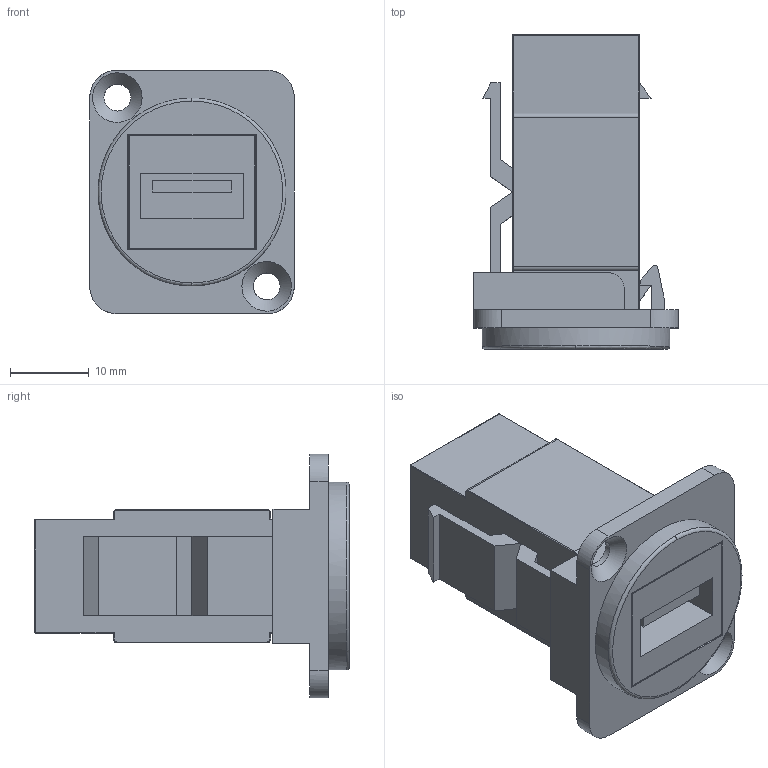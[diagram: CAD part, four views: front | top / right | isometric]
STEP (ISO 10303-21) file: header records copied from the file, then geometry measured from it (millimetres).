
FILE_DESCRIPTION(('FreeCAD Model'),'2;1');
FILE_NAME('Open CASCADE Shape Model','2026-05-14T10:24:56',(''),(''), 'Open CASCADE STEP processor 7.8','FreeCAD','Unknown');
FILE_SCHEMA(('AUTOMOTIVE_DESIGN { 1 0 10303 214 1 1 1 1 }'));
Length unit declared in the file: millimetre
Products named in the file (3): PMNST_USB2AB_BK; 3013BUSXLRBK; SIM-USBAB-XX-SX
Assembly tree (2 placements, depth 2):
  PMNST_USB2AB_BK
    3013BUSXLRBK
    SIM-USBAB-XX-SX
Bounding box: 26 x 40 x 31 mm (x, y, z)
Volume: 11514.4 mm3; surface area: 7235.8 mm2
Topology: 2 solids, 2 shells, 171 faces, 433 edges, 266 vertices
Faces by surface type: plane 67, bspline 56, cylinder 32, sphere 8, torus 8
Entity records: 6288 total; most frequent: CARTESIAN_POINT 2615, ORIENTED_EDGE 850, DIRECTION 563, EDGE_CURVE 425, VERTEX_POINT 266, LINE 199, VECTOR 199, FACE_BOUND 185
